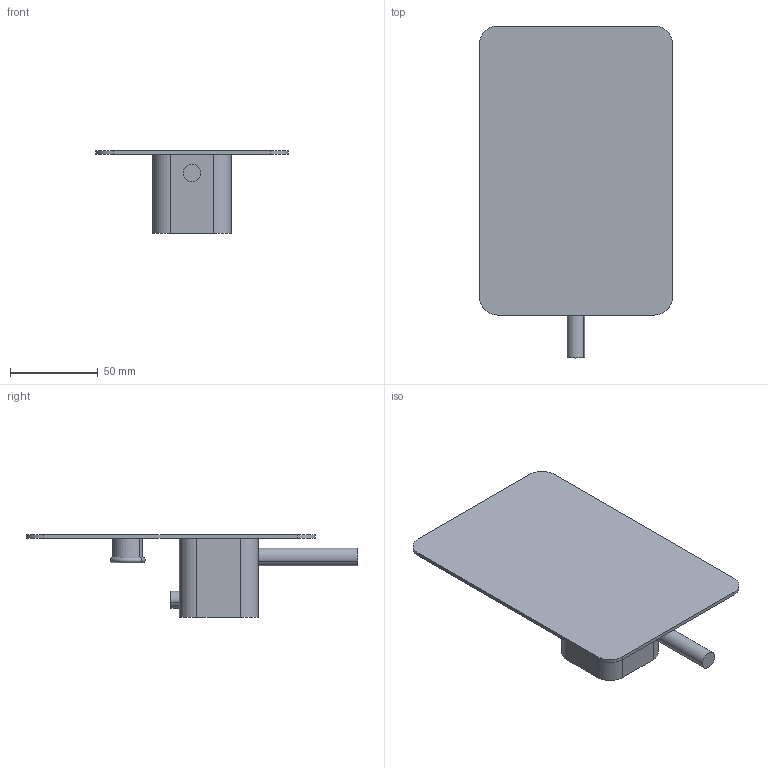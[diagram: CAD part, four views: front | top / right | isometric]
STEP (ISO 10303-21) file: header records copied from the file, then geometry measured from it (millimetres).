
FILE_DESCRIPTION (( 'STEP AP214' ), '1' );
FILE_NAME ('92120210 x architetti.STEP', '2024-11-25T14:24:28', ( '' ), ( '' ), 'SwSTEP 2.0', 'SolidWorks 2020', '' );
FILE_SCHEMA (( 'AUTOMOTIVE_DESIGN' ));
Length unit declared in the file: millimetre
Products named in the file (1): 92120210 x architetti
Bounding box: 110 x 189.5 x 47.1 mm (x, y, z)
Volume: 130915.9 mm3; surface area: 48398.9 mm2
Topology: 1 solids, 4 shells, 45 faces, 98 edges, 63 vertices
Faces by surface type: cylinder 22, plane 19, torus 2, cone 2
Entity records: 1739 total; most frequent: DIRECTION 236, CARTESIAN_POINT 205, ORIENTED_EDGE 192, EDGE_CURVE 96, AXIS2_PLACEMENT_3D 94, VERTEX_POINT 63, EDGE_LOOP 51, CIRCLE 48
